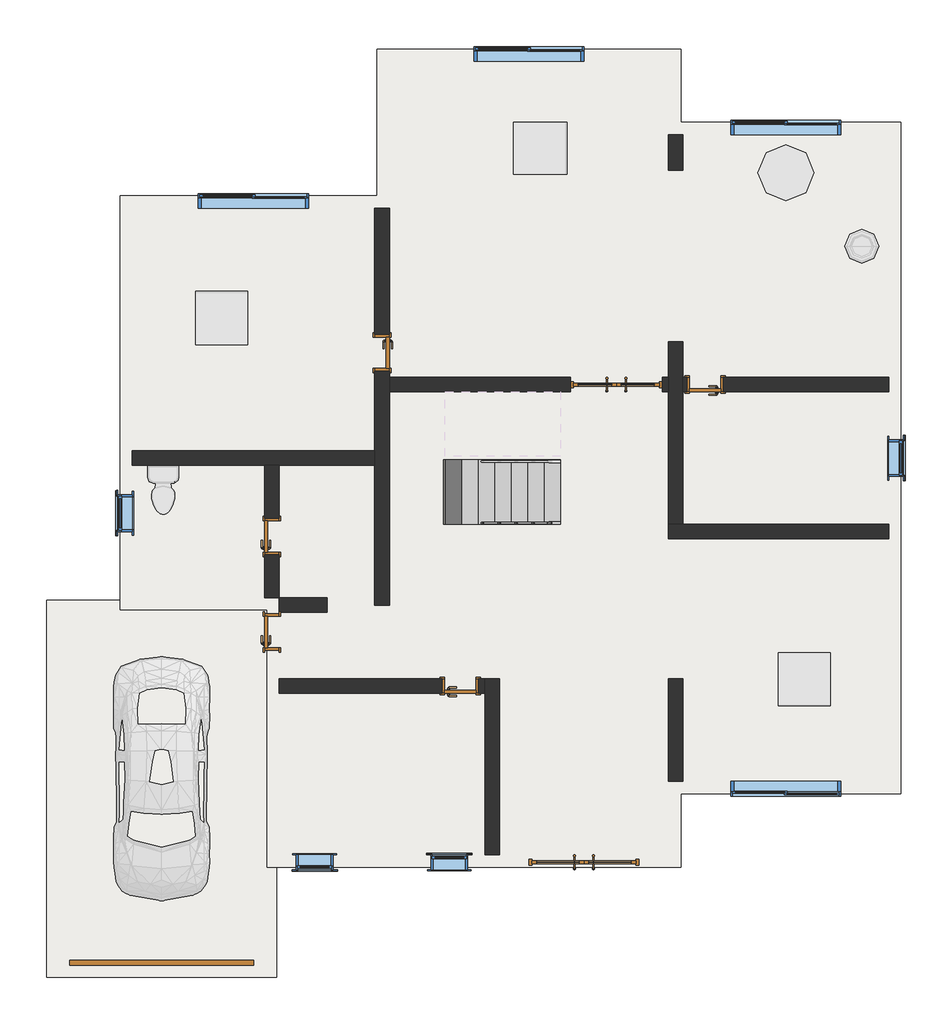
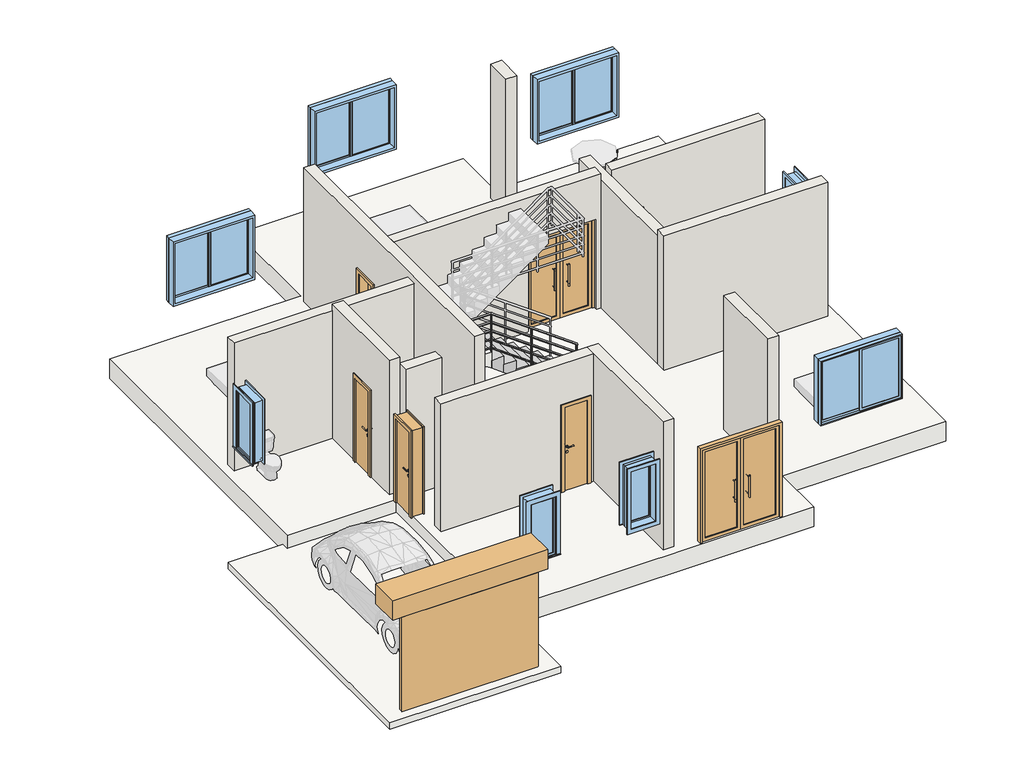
# One storey, part 1 of 3: 11 walls, 8 doors, 8 windows, 3 slabs, 1 railing, 1 stair flight.
"""IFC4 building model written with IfcOpenShell, lengths in millimetres."""

from ifc_helpers import new_model, si_unit, point, frame, frame_2d, origin, origin_with_axes, place, context, project, spatial, polyline, circle_curve, ellipse_curve, trimmed, segment, composite_curve, outline, extrude, faceted_brep, transform, mapped, element, save
from ifc_brep_helpers import plane_surface, cylinder_surface, advanced_brep
from components import jlm3022_3efa1593, m0620_20a38033, m0620_ca087de5, m1521_b0fe12bd, m1822_52daa345, c0614_d0b92543, c1815_f293d40e

model = new_model("IFC4")

# Units and contexts
model_context = context("Model", 3, world=origin())
ifc_project = project(units=[si_unit("LENGTHUNIT", "METRE", prefix="MILLI")], contexts=[model_context])

# Site, building, storey
site = spatial("IfcSite", under=ifc_project)
building = spatial("IfcBuilding", under=site)
storey = spatial("IfcBuildingStorey", under=building, Name="标高 1", Elevation=0.0)

# Doors
placement = place(None, origin())
jlm3022_shape = jlm3022_3efa1593(model_context)
element("IfcDoor", 1, ObjectType="滑升门 : JLM3022", at=placement, inside=storey, context=model_context, shape_type="MappedRepresentation", body=[
    mapped(jlm3022_shape, transform((-48057.1400177, -27507.7106127, -300.0), x_axis=(1.0, 0.0, 0.0), y_axis=(0.0, 1.0, 0.0), z_axis=(0.0, 0.0, 1.0))),
])
m0620_shape = m0620_20a38033(model_context)
element("IfcDoor", 2, ObjectType="单嵌板木门 1 : M0620", at=placement, inside=storey, context=model_context, shape_type="MappedRepresentation", body=[
    mapped(m0620_shape, transform((-44457.1400177, -17387.7106127, 0.0), x_axis=(0.0, -1.0, 0.0), y_axis=(1.0, 0.0, 0.0), z_axis=(0.0, 0.0, 1.0))),
])
element("IfcDoor", 3, ObjectType="单嵌板木门 1 : M0620", at=placement, inside=storey, context=model_context, shape_type="MappedRepresentation", body=[
    mapped(m0620_shape, transform((-46257.1400177, -20387.7106127, 0.0), x_axis=(0.0, 1.0, 0.0), y_axis=(-1.0, 0.0, 0.0), z_axis=(0.0, 0.0, 1.0))),
])
element("IfcDoor", 4, ObjectType="单嵌板木门 1 : M0620", at=placement, inside=storey, context=model_context, shape_type="MappedRepresentation", body=[
    mapped(m0620_shape, transform((-39177.1400177, -17907.7106127, 0.0), x_axis=(-1.0, 0.0, 0.0), y_axis=(0.0, -1.0, 0.0), z_axis=(0.0, 0.0, 1.0))),
])
element("IfcDoor", 5, ObjectType="单嵌板木门 1 : M0620", at=placement, inside=storey, context=model_context, shape_type="MappedRepresentation", body=[
    mapped(m0620_shape, transform((-46257.1400177, -21947.7106127, 0.0), x_axis=(0.0, 1.0, 0.0), y_axis=(-1.0, 0.0, 0.0), z_axis=(0.0, 0.0, 1.0))),
])
m0620_2_shape = m0620_ca087de5(model_context)
element("IfcDoor", 6, ObjectType="单嵌板木门 1 : M0620", at=placement, inside=storey, context=model_context, shape_type="MappedRepresentation", body=[
    mapped(m0620_2_shape, transform((-43177.1400177, -22827.7106127, 0.0), x_axis=(1.0, 0.0, 0.0), y_axis=(0.0, 1.0, 0.0), z_axis=(0.0, 0.0, 1.0))),
])
m1521_shape = m1521_b0fe12bd(model_context)
element("IfcDoor", 7, ObjectType="双面嵌板玻璃门 : M1521", at=placement, inside=storey, context=model_context, shape_type="MappedRepresentation", body=[
    mapped(m1521_shape, transform((-40627.1400177, -17907.7106127, 0.0), x_axis=(1.0, 0.0, 0.0), y_axis=(0.0, 1.0, 0.0), z_axis=(0.0, 0.0, 1.0))),
])
m1822_shape = m1822_52daa345(model_context)
element("IfcDoor", 8, ObjectType="双面嵌板玻璃门 : M1822", at=placement, inside=storey, context=model_context, shape_type="MappedRepresentation", body=[
    mapped(m1822_shape, transform((-41157.1400177, -25707.7106127, 0.0), x_axis=(1.0, 0.0, 0.0), y_axis=(0.0, 1.0, 0.0), z_axis=(0.0, 0.0, 1.0))),
])

# Railing
element("IfcRailing", 9, ObjectType="900mm 圆管", at=placement, inside=storey, context=model_context, shape_type="SolidModel", body=[
    advanced_brep(
    [(-41537.1400177, -20147.7106127, 1070.6282695), (-41537.1400177, -20187.7106127, 1070.6282695), (-43433.6154979, -20147.7106127, 2442.5), (-43433.6154979, -20187.7106127, 2442.5), (-44327.1400177, -20147.7106127, 2442.5), (-44327.1400177, -20187.7106127, 2442.5)],
    [
        (0, 1, ellipse_curve(frame((-41537.1400177, -20167.7106127, 1070.6282695), z_axis=(1.0, 0.0, 0.0), x_axis=(0.0, 0.0, -1.0)), 24.6842305, 20.0)),
        (1, 0, ellipse_curve(frame((-41537.1400177, -20167.7106127, 1070.6282695), z_axis=(1.0, 0.0, 0.0), x_axis=(0.0, 0.0, -1.0)), 24.6842305, 20.0)),
        (0, 2),
        (2, 3, ellipse_curve(frame((-43433.6154979, -20167.7106127, 2442.5), z_axis=(0.9513763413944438, 0.0, -0.3080309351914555), x_axis=(-0.3080309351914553, 0.0, -0.9513763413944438)), 21.0221751, 20.0)),
        (3, 1),
        (3, 2, ellipse_curve(frame((-43433.6154979, -20167.7106127, 2442.5), z_axis=(0.9513763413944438, 0.0, -0.3080309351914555), x_axis=(-0.3080309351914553, 0.0, -0.9513763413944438)), 21.0221751, 20.0)),
        (4, 5, circle_curve(frame((-44327.1400177, -20167.7106127, 2442.5), z_axis=(-1.0, 0.0, 0.0), x_axis=(0.0, -1.0, 0.0)), 20.0)),
        (5, 4, circle_curve(frame((-44327.1400177, -20167.7106127, 2442.5), z_axis=(-1.0, 0.0, 0.0), x_axis=(0.0, -1.0, 0.0)), 20.0)),
        (2, 4),
        (5, 3),
    ],
    [
        plane_surface(frame((-41537.1400177, -20167.7106127, 1095.3125), z_axis=(1.0, 0.0, 0.0), x_axis=(0.0, -1.0, 0.0))),
        cylinder_surface(frame((-41548.8621514, -20167.7106127, 1079.1078223), z_axis=(0.8102338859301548, 0.0, -0.586106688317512), x_axis=(0.0, -1.0, 0.0)), 20.0),
        plane_surface(frame((-44327.1400177, -20167.7106127, 2462.5), z_axis=(-1.0, 0.0, 0.0), x_axis=(0.0, -1.0, 0.0))),
        cylinder_surface(frame((-43427.1400177, -20167.7106127, 2442.5), z_axis=(1.0, 0.0, 0.0), x_axis=(0.0, -1.0, 0.0)), 20.0),
    ],
    [
        (0, [[1, 2]]),
        (1, [[-1, 3, 4, 5]]),
        (1, [[-2, -5, 6, -3]]),
        (2, [[7, 8]]),
        (3, [[-4, 9, -8, 10]]),
        (3, [[-6, -10, -7, -9]]),
    ],
),
    advanced_brep(
    [(-41537.1400177, -20182.7106127, 876.7993271), (-41537.1400177, -20152.7106127, 876.7993271), (-43431.9966278, -20182.7106127, 2247.5), (-43431.9966278, -20152.7106127, 2247.5), (-44327.1400177, -20182.7106127, 2247.5), (-44327.1400177, -20152.7106127, 2247.5)],
    [
        (0, 1, ellipse_curve(frame((-41537.1400177, -20167.7106127, 876.7993271), z_axis=(1.0, 0.0, 0.0), x_axis=(0.0, 0.0, -1.0)), 18.5131729, 15.0)),
        (1, 0, ellipse_curve(frame((-41537.1400177, -20167.7106127, 876.7993271), z_axis=(1.0, 0.0, 0.0), x_axis=(0.0, 0.0, -1.0)), 18.5131729, 15.0)),
        (0, 2),
        (2, 3, ellipse_curve(frame((-43431.9966278, -20167.7106127, 2247.5), z_axis=(0.9513763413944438, 0.0, -0.30803093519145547), x_axis=(-0.30803093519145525, 0.0, -0.9513763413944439)), 15.7666313, 15.0)),
        (3, 1),
        (3, 2, ellipse_curve(frame((-43431.9966278, -20167.7106127, 2247.5), z_axis=(0.9513763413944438, 0.0, -0.30803093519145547), x_axis=(-0.30803093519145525, 0.0, -0.9513763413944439)), 15.7666313, 15.0)),
        (4, 5, circle_curve(frame((-44327.1400177, -20167.7106127, 2247.5), z_axis=(-1.0, 0.0, 0.0), x_axis=(0.0, 1.0, 0.0)), 15.0)),
        (5, 4, circle_curve(frame((-44327.1400177, -20167.7106127, 2247.5), z_axis=(-1.0, 0.0, 0.0), x_axis=(0.0, 1.0, 0.0)), 15.0)),
        (2, 4),
        (5, 3),
    ],
    [
        plane_surface(frame((-41537.1400177, -20167.7106127, 895.3125), z_axis=(1.0, 0.0, 0.0), x_axis=(0.0, -1.0, 0.0))),
        cylinder_surface(frame((-41545.931618, -20167.7106127, 883.1589917), z_axis=(0.8102338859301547, 0.0, -0.586106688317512), x_axis=(0.0, 1.0, 0.0)), 15.0),
        plane_surface(frame((-44327.1400177, -20167.7106127, 2262.5), z_axis=(-1.0, 0.0, 0.0), x_axis=(0.0, -1.0, 0.0))),
        cylinder_surface(frame((-43427.1400177, -20167.7106127, 2247.5), z_axis=(1.0, 0.0, 0.0), x_axis=(0.0, 1.0, 0.0)), 15.0),
    ],
    [
        (0, [[1, 2]]),
        (1, [[-1, 3, 4, 5]]),
        (1, [[-2, -5, 6, -3]]),
        (2, [[7, 8]]),
        (3, [[-4, 9, -8, 10]]),
        (3, [[-6, -10, -7, -9]]),
    ],
),
    advanced_brep(
    [(-41537.1400177, -20182.7106127, 676.7993271), (-41537.1400177, -20152.7106127, 676.7993271), (-43431.9966278, -20182.7106127, 2047.5), (-43431.9966278, -20152.7106127, 2047.5), (-44327.1400177, -20182.7106127, 2047.5), (-44327.1400177, -20152.7106127, 2047.5)],
    [
        (0, 1, ellipse_curve(frame((-41537.1400177, -20167.7106127, 676.7993271), z_axis=(1.0, 0.0, 0.0), x_axis=(0.0, 0.0, -1.0)), 18.5131729, 15.0)),
        (1, 0, ellipse_curve(frame((-41537.1400177, -20167.7106127, 676.7993271), z_axis=(1.0, 0.0, 0.0), x_axis=(0.0, 0.0, -1.0)), 18.5131729, 15.0)),
        (0, 2),
        (2, 3, ellipse_curve(frame((-43431.9966278, -20167.7106127, 2047.5), z_axis=(0.9513763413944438, 0.0, -0.30803093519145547), x_axis=(-0.30803093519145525, 0.0, -0.9513763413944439)), 15.7666313, 15.0)),
        (3, 1),
        (3, 2, ellipse_curve(frame((-43431.9966278, -20167.7106127, 2047.5), z_axis=(0.9513763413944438, 0.0, -0.30803093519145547), x_axis=(-0.30803093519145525, 0.0, -0.9513763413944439)), 15.7666313, 15.0)),
        (4, 5, circle_curve(frame((-44327.1400177, -20167.7106127, 2047.5), z_axis=(-1.0, 0.0, 0.0), x_axis=(0.0, 1.0, 0.0)), 15.0)),
        (5, 4, circle_curve(frame((-44327.1400177, -20167.7106127, 2047.5), z_axis=(-1.0, 0.0, 0.0), x_axis=(0.0, 1.0, 0.0)), 15.0)),
        (2, 4),
        (5, 3),
    ],
    [
        plane_surface(frame((-41537.1400177, -20167.7106127, 695.3125), z_axis=(1.0, 0.0, 0.0), x_axis=(0.0, -1.0, 0.0))),
        cylinder_surface(frame((-41545.931618, -20167.7106127, 683.1589917), z_axis=(0.8102338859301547, 0.0, -0.586106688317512), x_axis=(0.0, 1.0, 0.0)), 15.0),
        plane_surface(frame((-44327.1400177, -20167.7106127, 2062.5), z_axis=(-1.0, 0.0, 0.0), x_axis=(0.0, -1.0, 0.0))),
        cylinder_surface(frame((-43427.1400177, -20167.7106127, 2047.5), z_axis=(1.0, 0.0, 0.0), x_axis=(0.0, 1.0, 0.0)), 15.0),
    ],
    [
        (0, [[1, 2]]),
        (1, [[-1, 3, 4, 5]]),
        (1, [[-2, -5, 6, -3]]),
        (2, [[7, 8]]),
        (3, [[-4, 9, -8, 10]]),
        (3, [[-6, -10, -7, -9]]),
    ],
),
    advanced_brep(
    [(-41537.1400177, -20182.7106127, 476.7993271), (-41537.1400177, -20152.7106127, 476.7993271), (-43431.9966278, -20182.7106127, 1847.5), (-43431.9966278, -20152.7106127, 1847.5), (-44327.1400177, -20182.7106127, 1847.5), (-44327.1400177, -20152.7106127, 1847.5)],
    [
        (0, 1, ellipse_curve(frame((-41537.1400177, -20167.7106127, 476.7993271), z_axis=(1.0, 0.0, 0.0), x_axis=(0.0, 0.0, -1.0)), 18.5131729, 15.0)),
        (1, 0, ellipse_curve(frame((-41537.1400177, -20167.7106127, 476.7993271), z_axis=(1.0, 0.0, 0.0), x_axis=(0.0, 0.0, -1.0)), 18.5131729, 15.0)),
        (0, 2),
        (2, 3, ellipse_curve(frame((-43431.9966278, -20167.7106127, 1847.5), z_axis=(0.9513763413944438, 0.0, -0.30803093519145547), x_axis=(-0.30803093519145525, 0.0, -0.9513763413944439)), 15.7666313, 15.0)),
        (3, 1),
        (3, 2, ellipse_curve(frame((-43431.9966278, -20167.7106127, 1847.5), z_axis=(0.9513763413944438, 0.0, -0.30803093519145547), x_axis=(-0.30803093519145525, 0.0, -0.9513763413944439)), 15.7666313, 15.0)),
        (4, 5, circle_curve(frame((-44327.1400177, -20167.7106127, 1847.5), z_axis=(-1.0, 0.0, 0.0), x_axis=(0.0, 1.0, 0.0)), 15.0)),
        (5, 4, circle_curve(frame((-44327.1400177, -20167.7106127, 1847.5), z_axis=(-1.0, 0.0, 0.0), x_axis=(0.0, 1.0, 0.0)), 15.0)),
        (2, 4),
        (5, 3),
    ],
    [
        plane_surface(frame((-41537.1400177, -20167.7106127, 495.3125), z_axis=(1.0, 0.0, 0.0), x_axis=(0.0, -1.0, 0.0))),
        cylinder_surface(frame((-41545.931618, -20167.7106127, 483.1589917), z_axis=(0.8102338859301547, 0.0, -0.586106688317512), x_axis=(0.0, 1.0, 0.0)), 15.0),
        plane_surface(frame((-44327.1400177, -20167.7106127, 1862.5), z_axis=(-1.0, 0.0, 0.0), x_axis=(0.0, -1.0, 0.0))),
        cylinder_surface(frame((-43427.1400177, -20167.7106127, 1847.5), z_axis=(1.0, 0.0, 0.0), x_axis=(0.0, 1.0, 0.0)), 15.0),
    ],
    [
        (0, [[1, 2]]),
        (1, [[-1, 3, 4, 5]]),
        (1, [[-2, -5, 6, -3]]),
        (2, [[7, 8]]),
        (3, [[-4, 9, -8, 10]]),
        (3, [[-6, -10, -7, -9]]),
    ],
),
    advanced_brep(
    [(-41537.1400177, -20182.7106127, 276.7993271), (-41537.1400177, -20152.7106127, 276.7993271), (-43431.9966278, -20182.7106127, 1647.5), (-43431.9966278, -20152.7106127, 1647.5), (-44327.1400177, -20182.7106127, 1647.5), (-44327.1400177, -20152.7106127, 1647.5)],
    [
        (0, 1, ellipse_curve(frame((-41537.1400177, -20167.7106127, 276.7993271), z_axis=(1.0, 0.0, 0.0), x_axis=(0.0, 0.0, -1.0)), 18.5131729, 15.0)),
        (1, 0, ellipse_curve(frame((-41537.1400177, -20167.7106127, 276.7993271), z_axis=(1.0, 0.0, 0.0), x_axis=(0.0, 0.0, -1.0)), 18.5131729, 15.0)),
        (0, 2),
        (2, 3, ellipse_curve(frame((-43431.9966278, -20167.7106127, 1647.5), z_axis=(0.9513763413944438, 0.0, -0.30803093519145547), x_axis=(-0.30803093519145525, 0.0, -0.9513763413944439)), 15.7666313, 15.0)),
        (3, 1),
        (3, 2, ellipse_curve(frame((-43431.9966278, -20167.7106127, 1647.5), z_axis=(0.9513763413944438, 0.0, -0.30803093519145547), x_axis=(-0.30803093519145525, 0.0, -0.9513763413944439)), 15.7666313, 15.0)),
        (4, 5, circle_curve(frame((-44327.1400177, -20167.7106127, 1647.5), z_axis=(-1.0, 0.0, 0.0), x_axis=(0.0, 1.0, 0.0)), 15.0)),
        (5, 4, circle_curve(frame((-44327.1400177, -20167.7106127, 1647.5), z_axis=(-1.0, 0.0, 0.0), x_axis=(0.0, 1.0, 0.0)), 15.0)),
        (2, 4),
        (5, 3),
    ],
    [
        plane_surface(frame((-41537.1400177, -20167.7106127, 295.3125), z_axis=(1.0, 0.0, 0.0), x_axis=(0.0, -1.0, 0.0))),
        cylinder_surface(frame((-41545.931618, -20167.7106127, 283.1589917), z_axis=(0.8102338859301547, 0.0, -0.586106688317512), x_axis=(0.0, 1.0, 0.0)), 15.0),
        plane_surface(frame((-44327.1400177, -20167.7106127, 1662.5), z_axis=(-1.0, 0.0, 0.0), x_axis=(0.0, -1.0, 0.0))),
        cylinder_surface(frame((-43427.1400177, -20167.7106127, 1647.5), z_axis=(1.0, 0.0, 0.0), x_axis=(0.0, 1.0, 0.0)), 15.0),
    ],
    [
        (0, [[1, 2]]),
        (1, [[-1, 3, 4, 5]]),
        (1, [[-2, -5, 6, -3]]),
        (2, [[7, 8]]),
        (3, [[-4, 9, -8, 10]]),
        (3, [[-6, -10, -7, -9]]),
    ],
),
    advanced_brep(
    [(-42537.1400177, -20155.2106127, 1769.3236686), (-42537.1400177, -20155.2106127, 781.25), (-42537.1400177, -20180.2106127, 781.25), (-42537.1400177, -20180.2106127, 1769.3236686)],
    [
        (0, 1),
        (1, 2, circle_curve(frame((-42537.1400177, -20167.7106127, 781.25), z_axis=(0.0, 0.0, 1.0), x_axis=(0.0, -1.0, 0.0)), 12.5)),
        (2, 3),
        (3, 0, ellipse_curve(frame((-42537.1400177, -20167.7106127, 1769.3236686), z_axis=(-0.5861066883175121, 0.0, -0.8102338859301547), x_axis=(-0.8102338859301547, 0.0, 0.5861066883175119)), 15.4276441, 12.5)),
        (0, 3, ellipse_curve(frame((-42537.1400177, -20167.7106127, 1769.3236686), z_axis=(-0.5861066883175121, 0.0, -0.8102338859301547), x_axis=(-0.8102338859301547, 0.0, 0.5861066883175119)), 15.4276441, 12.5)),
        (2, 1, circle_curve(frame((-42537.1400177, -20167.7106127, 781.25), z_axis=(0.0, 0.0, 1.0), x_axis=(0.0, -1.0, 0.0)), 12.5)),
    ],
    [
        cylinder_surface(frame((-42537.1400177, -20167.7106127, 681.25), z_axis=(0.0, 0.0, 1.0), x_axis=(0.0, -1.0, 0.0)), 12.5),
        plane_surface(frame((-42562.1400177, -20192.7106127, 1787.4081594), z_axis=(0.5861066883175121, 0.0, 0.8102338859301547), x_axis=(0.0, 1.0, 0.0))),
        plane_surface(frame((-42512.1400177, -20192.7106127, 781.25), z_axis=(0.0, 0.0, -1.0), x_axis=(0.0, 1.0, 0.0))),
    ],
    [
        (0, [[1, 2, 3, 4]]),
        (0, [[-1, 5, -3, 6]]),
        (1, [[-4, -5]]),
        (2, [[-2, -6]]),
    ],
),
    extrude(outline(composite_curve([segment(trimmed(circle_curve(frame_2d((-43427.1400177, -20167.7106127)), 12.5), [point((-43427.1400177, -20180.2106127))], [point((-43427.1400177, -20155.2106127))], False, "CARTESIAN"), True, "CONTINUOUS"), segment(trimmed(circle_curve(frame_2d((-43427.1400177, -20167.7106127)), 12.5), [point((-43427.1400177, -20155.2106127))], [point((-43427.1400177, -20180.2106127))], False, "CARTESIAN"), True, "CONTINUOUS")], self_intersect=False)), frame((0.0, 0.0, 1562.5), z_axis=(0.0, 0.0, 1.0), x_axis=(1.0, 0.0, 0.0)), (0.0, 0.0, 1.0), 860.0),
    extrude(outline(composite_curve([segment(trimmed(circle_curve(frame_2d((-44314.6400177, -20167.7106127)), 12.5), [point((-44314.6400177, -20180.2106127))], [point((-44314.6400177, -20155.2106127))], False, "CARTESIAN"), True, "CONTINUOUS"), segment(trimmed(circle_curve(frame_2d((-44314.6400177, -20167.7106127)), 12.5), [point((-44314.6400177, -20155.2106127))], [point((-44314.6400177, -20180.2106127))], False, "CARTESIAN"), True, "CONTINUOUS")], self_intersect=False)), frame((0.0, 0.0, 1562.5), z_axis=(0.0, 0.0, 1.0), x_axis=(1.0, 0.0, 0.0)), (0.0, 0.0, 1.0), 860.0),
    advanced_brep(
    [(-41549.6400177, -20155.2106127, 1054.9862844), (-41549.6400177, -20155.2106127, 195.3125), (-41549.6400177, -20180.2106127, 195.3125), (-41549.6400177, -20180.2106127, 1054.9862844)],
    [
        (0, 1),
        (1, 2, circle_curve(frame((-41549.6400177, -20167.7106127, 195.3125), z_axis=(0.0, 0.0, 1.0), x_axis=(0.0, -1.0, 0.0)), 12.5)),
        (2, 3),
        (3, 0, ellipse_curve(frame((-41549.6400177, -20167.7106127, 1054.9862844), z_axis=(-0.5861066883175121, 0.0, -0.8102338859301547), x_axis=(-0.8102338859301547, 0.0, 0.5861066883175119)), 15.4276441, 12.5)),
        (0, 3, ellipse_curve(frame((-41549.6400177, -20167.7106127, 1054.9862844), z_axis=(-0.5861066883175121, 0.0, -0.8102338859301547), x_axis=(-0.8102338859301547, 0.0, 0.5861066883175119)), 15.4276441, 12.5)),
        (2, 1, circle_curve(frame((-41549.6400177, -20167.7106127, 195.3125), z_axis=(0.0, 0.0, 1.0), x_axis=(0.0, -1.0, 0.0)), 12.5)),
    ],
    [
        cylinder_surface(frame((-41549.6400177, -20167.7106127, 95.3125), z_axis=(0.0, 0.0, 1.0), x_axis=(0.0, -1.0, 0.0)), 12.5),
        plane_surface(frame((-41574.6400177, -20192.7106127, 1073.0707751), z_axis=(0.5861066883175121, 0.0, 0.8102338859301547), x_axis=(0.0, 1.0, 0.0))),
        plane_surface(frame((-41524.6400177, -20192.7106127, 195.3125), z_axis=(0.0, 0.0, -1.0), x_axis=(0.0, 1.0, 0.0))),
    ],
    [
        (0, [[1, 2, 3, 4]]),
        (0, [[-1, 5, -3, 6]]),
        (1, [[-4, -5]]),
        (2, [[-2, -6]]),
    ],
),
])

# Slabs
element("IfcSlab", 10, ObjectType="楼板-450mm", at=placement, inside=storey, context=model_context, shape_type="SweptSolid", body=[
    extrude(outline(polyline([(-48737.1400177, -14827.7106127), (-44537.1400177, -14827.7106127), (-44537.1400177, -12427.7106127), (-39577.1400177, -12427.7106127), (-39577.1400177, -13627.7106127), (-35977.1400177, -13627.7106127), (-35977.1400177, -24587.7106127), (-39577.1400177, -24587.7106127), (-39577.1400177, -25787.7106127), (-46337.1400177, -25787.7106127), (-46337.1400177, -21587.7106127), (-48737.1400177, -21587.7106127), (-48737.1400177, -14827.7106127)])), frame((0.0, 0.0, -450.0), z_axis=(0.0, 0.0, 1.0), x_axis=(1.0, 0.0, 0.0)), (0.0, 0.0, 1.0), 450.0),
])
element("IfcSlab", 11, ObjectType="车库楼板-150mm", at=placement, inside=storey, context=model_context, shape_type="SweptSolid", body=[
    extrude(outline(polyline([(-46177.1400177, -27587.7106127), (-49937.1400177, -27587.7106127), (-49937.1400177, -21427.7106127), (-48737.1400177, -21427.7106127), (-48737.1400177, -21587.7106127), (-46337.1400177, -21587.7106127), (-46337.1400177, -25787.7106127), (-46177.1400177, -25787.7106127), (-46177.1400177, -27587.7106127)])), frame((0.0, 0.0, -450.0), z_axis=(0.0, 0.0, 1.0), x_axis=(1.0, 0.0, 0.0)), (0.0, 0.0, 1.0), 150.0),
])
element("IfcSlab", 12, ObjectType="300mm 厚度", at=placement, inside=storey, context=model_context, shape_type="Brep", body=[
    faceted_brep([(-43427.1400177, -20187.7106127, 1562.5), (-43427.1400177, -19137.7106127, 1562.5), (-43427.1400177, -19077.7106127, 1562.5), (-43427.1400177, -18027.7106127, 1562.5), (-43585.9339158, -18027.7106127, 1562.5), (-44337.1400177, -18027.7106127, 1562.5), (-44337.1400177, -20187.7106127, 1562.5), (-43538.3461195, -20187.7106127, 1562.5), (-43427.1400177, -20187.7106127, 1367.1875), (-43427.1400177, -20187.7106127, 1182.0557712), (-43427.1400177, -19137.7106127, 1182.0557712), (-43427.1400177, -19137.7106127, 1262.5), (-43427.1400177, -19077.7106127, 1262.5), (-43427.1400177, -19077.7106127, 1377.3682712), (-43427.1400177, -18027.7106127, 1377.3682712), (-43585.9339158, -18027.7106127, 1262.5), (-44337.1400177, -18027.7106127, 1262.5), (-44337.1400177, -20187.7106127, 1262.5), (-43538.3461195, -20187.7106127, 1262.5), (-43585.9339158, -19077.7106127, 1262.5), (-43538.3461195, -19137.7106127, 1262.5)], [[[0, 1, 2, 3, 4, 5, 6, 7]], [[1, 0, 8, 9, 10, 11]], [[2, 1, 11, 12, 13]], [[3, 2, 13, 14]], [[3, 14, 15, 16, 5, 4]], [[6, 5, 16, 17]], [[9, 8, 0, 7, 6, 17, 18]], [[19, 12, 11, 20, 18, 17, 16, 15]], [[12, 19, 13]], [[18, 20, 10, 9]], [[20, 11, 10]], [[19, 15, 14, 13]]]),
])

# Stair flight
element("IfcStairFlight", 13, ObjectType="150mm 结构深度", at=placement, inside=storey, context=model_context, shape_type="Brep", body=[
    faceted_brep([(-41807.1400177, -20187.7106127, 195.3125), (-41537.1400177, -20187.7106127, 195.3125), (-41537.1400177, -19137.7106127, 195.3125), (-41807.1400177, -19137.7106127, 195.3125), (-41807.1400177, -20187.7106127, 10.1807712), (-41793.0661195, -20187.7106127, 0.0), (-41537.1400177, -20187.7106127, 0.0), (-41537.1400177, -19137.7106127, 0.0), (-41793.0661195, -19137.7106127, 0.0), (-41807.1400177, -19137.7106127, 10.1807712), (-42077.1400177, -20187.7106127, 390.625), (-41807.1400177, -20187.7106127, 390.625), (-41807.1400177, -19137.7106127, 390.625), (-42077.1400177, -19137.7106127, 390.625), (-42077.1400177, -20187.7106127, 205.4932712), (-42077.1400177, -19137.7106127, 205.4932712), (-42347.1400177, -20187.7106127, 585.9375), (-42077.1400177, -20187.7106127, 585.9375), (-42077.1400177, -19137.7106127, 585.9375), (-42347.1400177, -19137.7106127, 585.9375), (-42347.1400177, -20187.7106127, 400.8057712), (-42347.1400177, -19137.7106127, 400.8057712), (-42617.1400177, -20187.7106127, 781.25), (-42347.1400177, -20187.7106127, 781.25), (-42347.1400177, -19137.7106127, 781.25), (-42617.1400177, -19137.7106127, 781.25), (-42617.1400177, -20187.7106127, 596.1182712), (-42617.1400177, -19137.7106127, 596.1182712), (-42887.1400177, -20187.7106127, 976.5625), (-42617.1400177, -20187.7106127, 976.5625), (-42617.1400177, -19137.7106127, 976.5625), (-42887.1400177, -19137.7106127, 976.5625), (-42887.1400177, -20187.7106127, 791.4307712), (-42887.1400177, -19137.7106127, 791.4307712), (-43157.1400177, -20187.7106127, 1171.875), (-42887.1400177, -20187.7106127, 1171.875), (-42887.1400177, -19137.7106127, 1171.875), (-43157.1400177, -19137.7106127, 1171.875), (-43157.1400177, -20187.7106127, 986.7432712), (-43157.1400177, -19137.7106127, 986.7432712), (-43427.1400177, -20187.7106127, 1367.1875), (-43157.1400177, -20187.7106127, 1367.1875), (-43157.1400177, -19137.7106127, 1367.1875), (-43427.1400177, -19137.7106127, 1367.1875), (-43427.1400177, -20187.7106127, 1182.0557712), (-43427.1400177, -19137.7106127, 1182.0557712), (-43427.1400177, -19137.7106127, 1262.5)], [[[0, 1, 2, 3]], [[1, 0, 4, 5, 6]], [[2, 1, 6, 7]], [[3, 2, 7, 8, 9]], [[10, 11, 12, 13]], [[11, 10, 14, 4, 0]], [[0, 3, 12, 11]], [[13, 12, 3, 9, 15]], [[16, 17, 18, 19]], [[17, 16, 20, 14, 10]], [[10, 13, 18, 17]], [[19, 18, 13, 15, 21]], [[22, 23, 24, 25]], [[23, 22, 26, 20, 16]], [[16, 19, 24, 23]], [[25, 24, 19, 21, 27]], [[28, 29, 30, 31]], [[29, 28, 32, 26, 22]], [[22, 25, 30, 29]], [[31, 30, 25, 27, 33]], [[34, 35, 36, 37]], [[35, 34, 38, 32, 28]], [[28, 31, 36, 35]], [[37, 36, 31, 33, 39]], [[40, 41, 42, 43]], [[41, 40, 44, 38, 34]], [[34, 37, 42, 41]], [[43, 42, 37, 39, 45, 46]], [[40, 43, 46, 45, 44]], [[7, 6, 5, 8]], [[8, 5, 4, 14, 20, 26, 32, 38, 44, 45, 39, 33, 27, 21, 15, 9]]]),
])

# Walls
element("IfcWall", 14, ObjectType="内墙-240mm", at=placement, inside=storey, context=model_context, shape_type="SweptSolid", body=[
    extrude(outline(polyline([(-39777.1400177, -14407.7106127), (-39777.1400177, -13827.7106127), (-39537.1400177, -13827.7106127), (-39537.1400177, -14407.7106127), (-39777.1400177, -14407.7106127)])), origin_with_axes(), (0.0, 0.0, 1.0), 3125.0),
])
element("IfcWall", 15, ObjectType="内墙-240mm", at=placement, inside=storey, context=model_context, shape_type="Brep", body=[
    faceted_brep([(-44577.1400177, -21507.7106127, 0.0), (-44577.1400177, -21507.7106127, 3125.0), (-44577.1400177, -15027.7106127, 3125.0), (-44577.1400177, -15027.7106127, 0.0), (-44577.1400177, -17087.7106127, 0.0), (-44577.1400177, -17087.7106127, 2000.0), (-44577.1400177, -17687.7106127, 2000.0), (-44577.1400177, -17687.7106127, 0.0), (-44577.1400177, -18987.7106127, 0.0), (-44577.1400177, -19227.7106127, 0.0), (-44337.1400177, -21507.7106127, 3125.0), (-44337.1400177, -21507.7106127, 0.0), (-44337.1400177, -18027.7106127, 0.0), (-44337.1400177, -17787.7106127, 0.0), (-44337.1400177, -17687.7106127, 0.0), (-44337.1400177, -17687.7106127, 2000.0), (-44337.1400177, -17087.7106127, 2000.0), (-44337.1400177, -17087.7106127, 0.0), (-44337.1400177, -15027.7106127, 0.0), (-44337.1400177, -15027.7106127, 3125.0), (-44337.1400177, -17787.7106127, 3125.0), (-44337.1400177, -18027.7106127, 3125.0)], [[[0, 1, 2, 3, 4, 5, 6, 7, 8, 9]], [[10, 11, 12, 13, 14, 15, 16, 17, 18, 19, 20, 21]], [[11, 0, 9, 8, 7, 14, 13, 12]], [[3, 18, 17, 4]], [[1, 0, 11, 10]], [[2, 1, 10, 21, 20, 19]], [[3, 2, 19, 18]], [[6, 15, 14, 7]], [[15, 6, 5, 16]], [[16, 5, 4, 17]]]),
])
element("IfcWall", 16, ObjectType="内墙-240mm", at=placement, inside=storey, context=model_context, shape_type="Brep", body=[
    faceted_brep([(-42777.1400177, -22707.7106127, 0.0), (-42777.1400177, -22947.7106127, 0.0), (-42777.1400177, -25587.7106127, 0.0), (-42777.1400177, -25587.7106127, 2975.0), (-42777.1400177, -22947.7106127, 2975.0), (-42777.1400177, -22707.7106127, 2975.0), (-42537.1400177, -25587.7106127, 0.0), (-42537.1400177, -22707.7106127, 0.0), (-42537.1400177, -22707.7106127, 2975.0), (-42537.1400177, -25587.7106127, 2975.0)], [[[0, 1, 2, 3, 4, 5]], [[6, 7, 8, 9]], [[2, 1, 0, 7, 6]], [[7, 0, 5, 8]], [[2, 6, 9, 3]], [[5, 4, 3, 9, 8]]]),
])
element("IfcWall", 17, ObjectType="内墙-240mm", at=placement, inside=storey, context=model_context, shape_type="SweptSolid", body=[
    extrude(outline(polyline([(-21387.7106127, 3125.0), (-19227.7106127, 3125.0), (-19227.7106127, 0.0), (-20087.7106127, 0.0), (-20087.7106127, 2000.0), (-20687.7106127, 2000.0), (-20687.7106127, 0.0), (-21387.7106127, 0.0), (-21387.7106127, 3125.0)])), frame((-46377.1400177, 0.0, 0.0), z_axis=(1.0, 0.0, 0.0), x_axis=(0.0, 1.0, 0.0)), (0.0, 0.0, 1.0), 240.0),
])
element("IfcWall", 18, ObjectType="内墙-240mm", at=placement, inside=storey, context=model_context, shape_type="SweptSolid", body=[
    extrude(outline(polyline([(0.0, -36177.1400177), (3125.0, -36177.1400177), (3125.0, -39537.1400177), (0.0, -39537.1400177), (0.0, -39477.1400177), (2000.0, -39477.1400177), (2000.0, -38877.1400177), (0.0, -38877.1400177), (0.0, -36177.1400177)])), frame((0.0, -18027.7106127, 0.0), z_axis=(0.0, 1.0, 0.0), x_axis=(0.0, 0.0, 1.0)), (0.0, 0.0, 1.0), 240.0),
    extrude(outline(polyline([(3125.0, -44337.1400177), (0.0, -44337.1400177), (0.0, -41377.1400177), (2100.0, -41377.1400177), (2100.0, -39877.1400177), (0.0, -39877.1400177), (0.0, -39777.1400177), (3125.0, -39777.1400177), (3125.0, -44337.1400177)])), frame((0.0, -18027.7106127, 0.0), z_axis=(0.0, 1.0, 0.0), x_axis=(0.0, 0.0, 1.0)), (0.0, 0.0, 1.0), 240.0),
])
element("IfcWall", 19, ObjectType="内墙-240mm", at=placement, inside=storey, context=model_context, shape_type="Brep", body=[
    faceted_brep([(-48537.1400177, -19227.7106127, 0.0), (-46377.1400177, -19227.7106127, 0.0), (-46137.1400177, -19227.7106127, 0.0), (-44577.1400177, -19227.7106127, 0.0), (-44577.1400177, -19227.7106127, 2975.0), (-48537.1400177, -19227.7106127, 2975.0), (-44577.1400177, -18987.7106127, 0.0), (-48537.1400177, -18987.7106127, 0.0), (-48537.1400177, -18987.7106127, 2975.0), (-44577.1400177, -18987.7106127, 2975.0)], [[[0, 1, 2, 3, 4, 5]], [[6, 7, 8, 9]], [[3, 2, 1, 0, 7, 6]], [[7, 0, 5, 8]], [[3, 6, 9, 4]], [[5, 4, 9, 8]]]),
])
element("IfcWall", 20, ObjectType="内墙-240mm", at=placement, inside=storey, context=model_context, shape_type="SweptSolid", body=[
    extrude(outline(polyline([(-45357.1400177, -21627.7106127), (-46137.1400177, -21627.7106127), (-46137.1400177, -21387.7106127), (-45357.1400177, -21387.7106127), (-45357.1400177, -21627.7106127)])), origin_with_axes(), (0.0, 0.0, 1.0), 2975.0),
])
element("IfcWall", 21, ObjectType="内墙-240mm", at=placement, inside=storey, context=model_context, shape_type="Brep", body=[
    faceted_brep([(-36177.1400177, -20187.7106127, 0.0), (-39537.1400177, -20187.7106127, 0.0), (-39777.1400177, -20187.7106127, 0.0), (-39777.1400177, -20187.7106127, 2975.0), (-39777.1400177, -20187.7106127, 3125.0), (-36177.1400177, -20187.7106127, 3125.0), (-36177.1400177, -20427.7106127, 0.0), (-36177.1400177, -20427.7106127, 3125.0), (-39777.1400177, -20427.7106127, 3125.0), (-39777.1400177, -20427.7106127, 0.0)], [[[0, 1, 2, 3, 4, 5]], [[6, 7, 8, 9]], [[2, 1, 0, 6, 9]], [[5, 4, 8, 7]], [[0, 5, 7, 6]], [[4, 3, 2, 9, 8]]]),
])
element("IfcWall", 22, ObjectType="内墙-240mm", at=placement, inside=storey, context=model_context, shape_type="SweptSolid", body=[
    extrude(outline(polyline([(0.0, -42877.1400177), (0.0, -42777.1400177), (2975.0, -42777.1400177), (2975.0, -46137.1400177), (0.0, -46137.1400177), (0.0, -43477.1400177), (2000.0, -43477.1400177), (2000.0, -42877.1400177), (0.0, -42877.1400177)])), frame((0.0, -22947.7106127, 0.0), z_axis=(0.0, 1.0, 0.0), x_axis=(0.0, 0.0, 1.0)), (0.0, 0.0, 1.0), 240.0),
])
element("IfcWall", 23, ObjectType="内墙-240mm", at=placement, inside=storey, context=model_context, shape_type="Brep", body=[
    faceted_brep([(-39777.1400177, -17207.7106127, 0.0), (-39777.1400177, -17787.7106127, 0.0), (-39777.1400177, -18027.7106127, 0.0), (-39777.1400177, -20187.7106127, 0.0), (-39777.1400177, -20187.7106127, 2975.0), (-39777.1400177, -17207.7106127, 2975.0), (-39537.1400177, -20187.7106127, 0.0), (-39537.1400177, -18027.7106127, 0.0), (-39537.1400177, -17787.7106127, 0.0), (-39537.1400177, -17207.7106127, 0.0), (-39537.1400177, -17207.7106127, 2975.0), (-39537.1400177, -20187.7106127, 2975.0)], [[[0, 1, 2, 3, 4, 5]], [[6, 7, 8, 9, 10, 11]], [[3, 2, 1, 0, 9, 8, 7, 6]], [[9, 0, 5, 10]], [[3, 6, 11, 4]], [[5, 4, 11, 10]]]),
])
element("IfcWall", 24, ObjectType="内墙-240mm", at=placement, inside=storey, context=model_context, shape_type="SweptSolid", body=[
    extrude(outline(polyline([(-39777.1400177, -24387.7106127), (-39777.1400177, -22707.7106127), (-39537.1400177, -22707.7106127), (-39537.1400177, -24387.7106127), (-39777.1400177, -24387.7106127)])), origin_with_axes(), (0.0, 0.0, 1.0), 3125.0),
])

# Windows
c0614_shape = c0614_d0b92543(model_context)
element("IfcWindow", 25, ObjectType="单扇平开窗1 - 带贴面 : C0614", at=placement, inside=storey, context=model_context, shape_type="MappedRepresentation", body=[
    mapped(c0614_shape, transform((-36057.1400177, -19107.7106127, 0.0), x_axis=(0.0, -1.0, 0.0), y_axis=(1.0, 0.0, 0.0), z_axis=(0.0, 0.0, 1.0))),
])
element("IfcWindow", 26, ObjectType="单扇平开窗1 - 带贴面 : C0614", at=placement, inside=storey, context=model_context, shape_type="MappedRepresentation", body=[
    mapped(c0614_shape, transform((-48657.1400177, -20007.7106127, 0.0), x_axis=(0.0, 1.0, 0.0), y_axis=(-1.0, 0.0, 0.0), z_axis=(0.0, 0.0, 1.0))),
])
element("IfcWindow", 27, ObjectType="单扇平开窗1 - 带贴面 : C0614", at=placement, inside=storey, context=model_context, shape_type="MappedRepresentation", body=[
    mapped(c0614_shape, transform((-45557.1400177, -25707.7106127, 0.0), x_axis=(-1.0, 0.0, 0.0), y_axis=(0.0, -1.0, 0.0), z_axis=(0.0, 0.0, 1.0))),
])
element("IfcWindow", 28, ObjectType="单扇平开窗1 - 带贴面 : C0614", at=placement, inside=storey, context=model_context, shape_type="MappedRepresentation", body=[
    mapped(c0614_shape, transform((-43357.1400177, -25707.7106127, 0.0), x_axis=(1.0, 0.0, 0.0), y_axis=(0.0, 1.0, 0.0), z_axis=(0.0, 0.0, 1.0))),
])
c1815_shape = c1815_f293d40e(model_context)
element("IfcWindow", 29, ObjectType="推拉窗6 : C1815", at=placement, inside=storey, context=model_context, shape_type="MappedRepresentation", body=[
    mapped(c1815_shape, transform((-46566.6650177, -14840.8371752, 0.0), x_axis=(1.0, 0.0, 0.0), y_axis=(0.0, 1.0, 0.0), z_axis=(0.0, 0.0, 1.0))),
])
element("IfcWindow", 30, ObjectType="推拉窗6 : C1815", at=placement, inside=storey, context=model_context, shape_type="MappedRepresentation", body=[
    mapped(c1815_shape, transform((-42066.6650177, -12440.8371752, 0.0), x_axis=(1.0, 0.0, 0.0), y_axis=(0.0, 1.0, 0.0), z_axis=(0.0, 0.0, 1.0))),
])
element("IfcWindow", 31, ObjectType="推拉窗6 : C1815", at=placement, inside=storey, context=model_context, shape_type="MappedRepresentation", body=[
    mapped(c1815_shape, transform((-37866.6650177, -13640.8371752, 0.0), x_axis=(1.0, 0.0, 0.0), y_axis=(0.0, 1.0, 0.0), z_axis=(0.0, 0.0, 1.0))),
])
element("IfcWindow", 32, ObjectType="推拉窗6 : C1815", at=placement, inside=storey, context=model_context, shape_type="MappedRepresentation", body=[
    mapped(c1815_shape, transform((-37847.6150177, -24574.5840502, 0.0), x_axis=(-1.0, 0.0, 0.0), y_axis=(0.0, -1.0, 0.0), z_axis=(0.0, 0.0, 1.0))),
])

save(model, "model.ifc")
